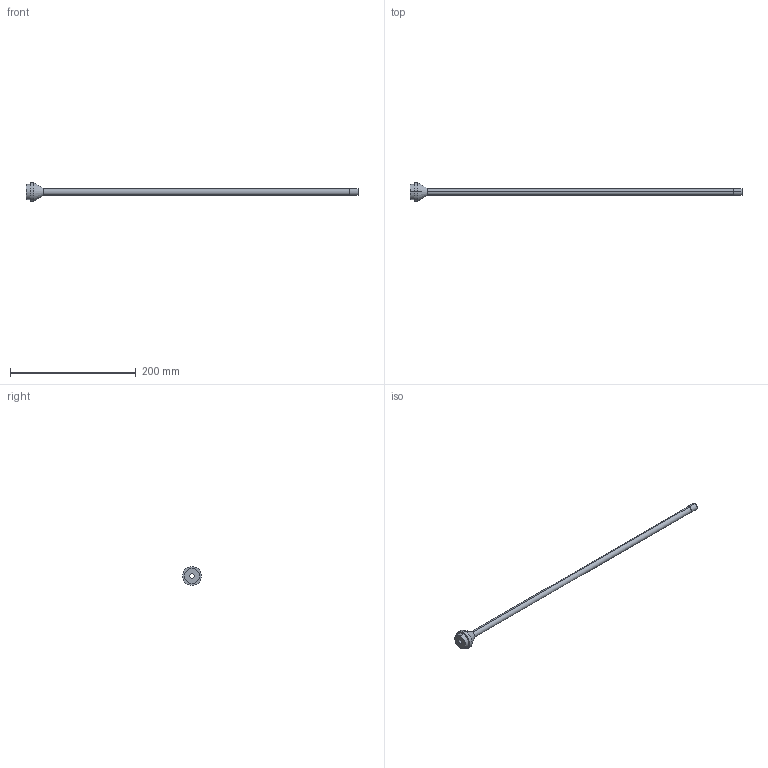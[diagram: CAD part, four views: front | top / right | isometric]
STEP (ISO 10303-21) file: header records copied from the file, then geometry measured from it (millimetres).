
FILE_DESCRIPTION (( 'STEP AP203' ), '1' );
FILE_NAME ('ER-AD50.STEP', '2005-09-05T02:08:37', ( '' ), ( '' ), 'SwSTEP 2.0', 'SolidWorks 2004073', '' );
FILE_SCHEMA (( 'CONFIG_CONTROL_DESIGN' ));
Length unit declared in the file: millimetre
Products named in the file (1): ER-AD50
Bounding box: 527 x 30 x 30 mm (x, y, z)
Volume: 31417.5 mm3; surface area: 30267.2 mm2
Topology: 1 solids, 1 shells, 17 faces, 34 edges, 22 vertices
Faces by surface type: cylinder 10, plane 5, cone 2
Entity records: 535 total; most frequent: DIRECTION 92, CARTESIAN_POINT 74, ORIENTED_EDGE 68, AXIS2_PLACEMENT_3D 40, EDGE_CURVE 34, VERTEX_POINT 22, EDGE_LOOP 22, CIRCLE 22
